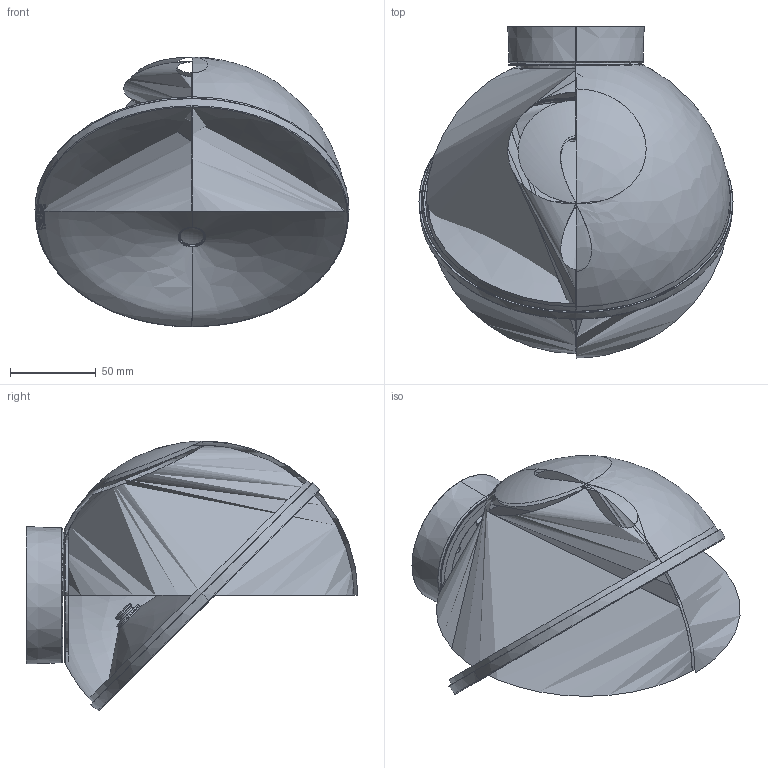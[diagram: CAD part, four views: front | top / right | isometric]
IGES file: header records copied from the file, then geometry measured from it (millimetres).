
Start section: SolidWorks IGES file using analytic representation for surfaces
Global section: file name: F:\foscarini\RS\0_ 3D-2D\FOSCARINI\CATALOGO\BEEP\3d (3ds,dxf,stp,igs)\SOLIDWORKS\BEEP PARETE.IGS; native system: SolidWorks 2020; preprocessor: SolidWorks 2020; author: m.tonasso; date: 200206.151123; units: millimetre
Bounding box: 183 x 193.38 x 157.21 mm (x, y, z)
Surface area: 183097.4 mm2 (no closed solid volume)
Topology: 0 solids, 0 shells, 382 faces, 4998 edges, 4988 vertices
Faces by surface type: bspline 265, revolution 117
